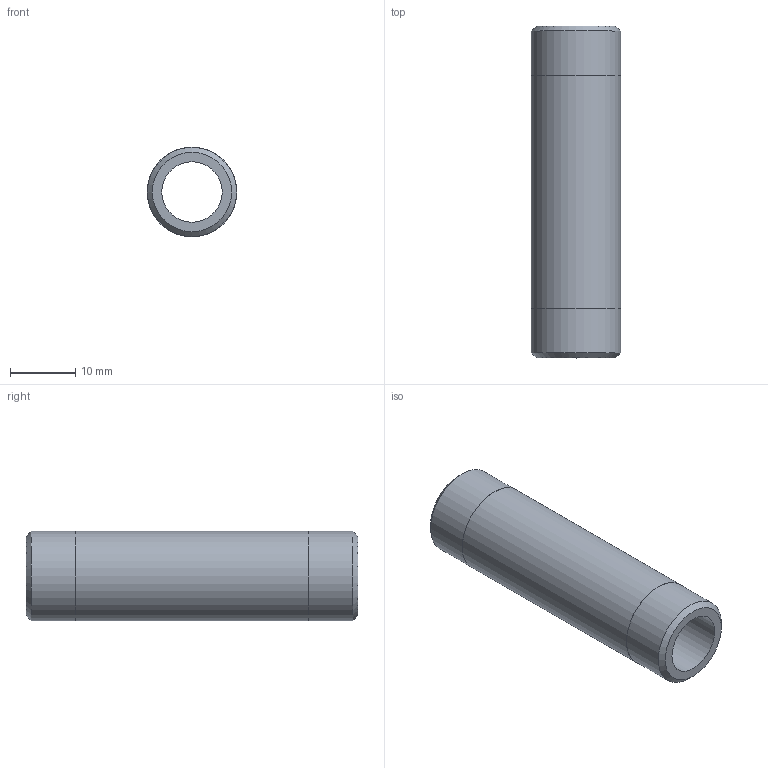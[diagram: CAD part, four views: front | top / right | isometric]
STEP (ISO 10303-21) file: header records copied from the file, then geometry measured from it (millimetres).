
FILE_DESCRIPTION(/* description */ (''),/* implementation_level */ '2;1');
FILE_NAME(/* name */ 'C:/Users/drich/Desktop/BPN14-2 v1.step',/* time_stamp */ '2020-01-03T14:36:39-06:00',/* author */ (''),/* organization */ (''),/* preprocessor_version */ 'ST-DEVELOPER v18',/* originating_system */ 'Autodesk Translation Framework v8.12.0.6',/* authorisation */ '');
FILE_SCHEMA (('AUTOMOTIVE_DESIGN { 1 0 10303 214 3 1 1 }'));
Length unit declared in the file: inch
Products named in the file (1): BPN14-2
Bounding box: 13.72 x 50.8 x 13.72 mm (x, y, z)
Volume: 4054.8 mm3; surface area: 3783.5 mm2
Topology: 1 solids, 1 shells, 10 faces, 24 edges, 18 vertices
Faces by surface type: cylinder 4, plane 4, cone 2
Full cylindrical faces by diameter (mm): 9.246 x1, 13.665 x2, 13.716 x1
Entity records: 360 total; most frequent: DIRECTION 64, CARTESIAN_POINT 53, ORIENTED_EDGE 48, AXIS2_PLACEMENT_3D 29, EDGE_CURVE 24, CIRCLE 18, VERTEX_POINT 18, EDGE_LOOP 14
